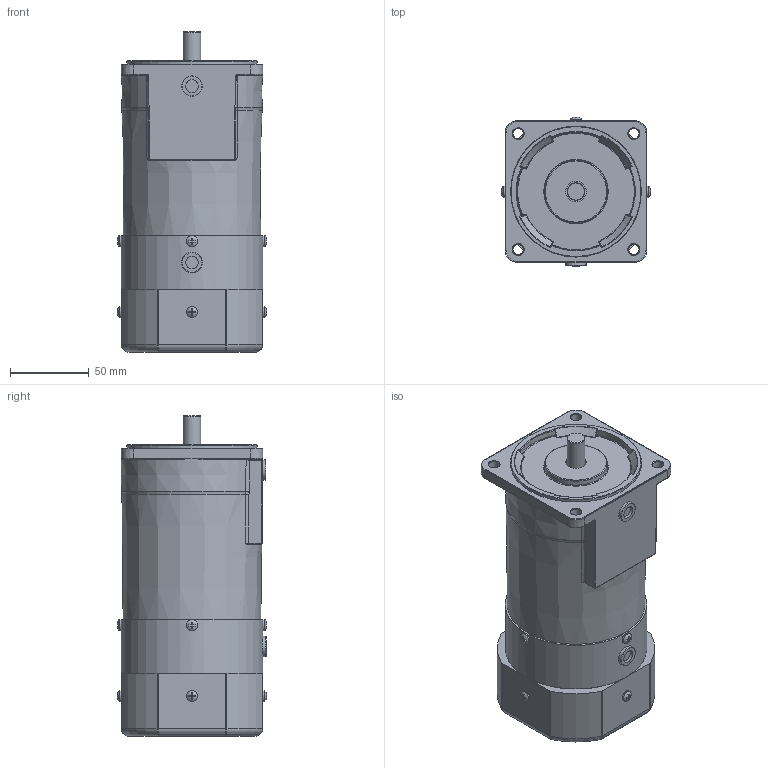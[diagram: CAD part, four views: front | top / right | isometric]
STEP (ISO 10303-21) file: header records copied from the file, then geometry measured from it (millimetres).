
FILE_DESCRIPTION (( 'STEP AP214' ), '1' );
FILE_NAME ('9BDG¤±-90FH.STEP', '2025-01-13T07:48:58', ( '' ), ( '' ), 'SwSTEP 2.0', 'SolidWorks 2024', '' );
FILE_SCHEMA (( 'AUTOMOTIVE_DESIGN' ));
Length unit declared in the file: millimetre
Products named in the file (1): 9BDGㅁ-90FH
Bounding box: 95.09 x 95.09 x 203.5 mm (x, y, z)
Volume: 1196279.5 mm3; surface area: 75117.9 mm2
Topology: 1 solids, 1 shells, 466 faces, 1192 edges, 747 vertices
Faces by surface type: plane 199, cylinder 144, bspline 40, torus 40, cone 33, sphere 10
Full cylindrical faces by diameter (mm): 6.1 x1, 6.5 x4, 7 x8, 8 x2, 11.39 x1, 13 x3, 83.1 x1, 90 x1
Entity records: 15474 total; most frequent: CARTESIAN_POINT 4800, ORIENTED_EDGE 2198, DIRECTION 2177, EDGE_CURVE 1099, AXIS2_PLACEMENT_3D 847, VERTEX_POINT 726, EDGE_LOOP 565, FACE_OUTER_BOUND 500
